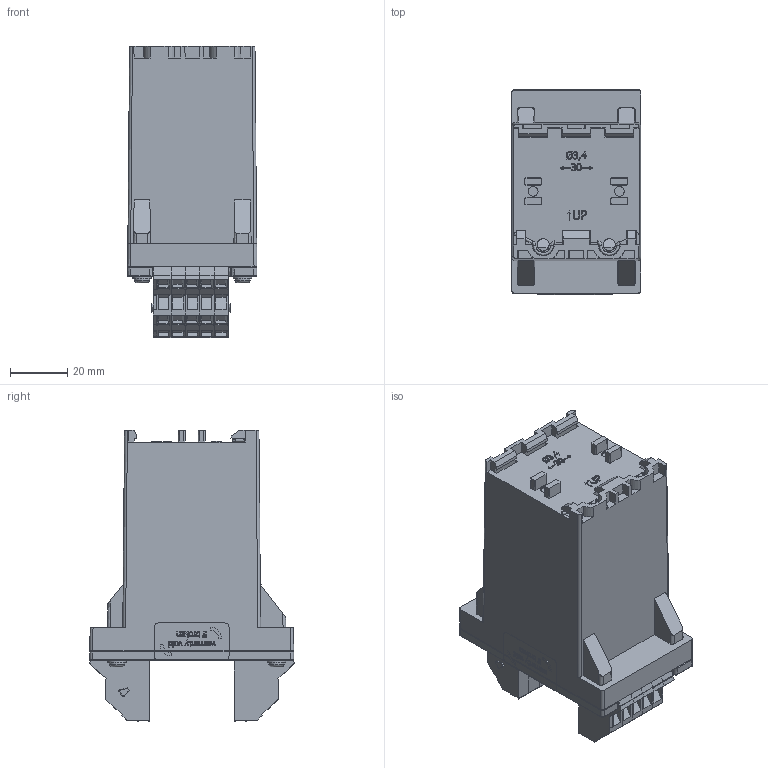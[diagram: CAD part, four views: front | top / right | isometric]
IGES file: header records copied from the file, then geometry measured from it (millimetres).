
Global section: file name: No Iges File Name specified; native system: Autodesk Inventor 2012; preprocessor: AutoDesk Inventor Iges Exporter R2012; author: a.vos; date: 20120126.112219; units: millimetre
Bounding box: 45.18 x 71.4 x 101.5 mm (x, y, z)
Surface area: 29847.6 mm2 (no closed solid volume)
Topology: 0 solids, 2 shells, 1828 faces, 9689 edges, 9655 vertices
Faces by surface type: plane 1362, revolution 265, bspline 201
